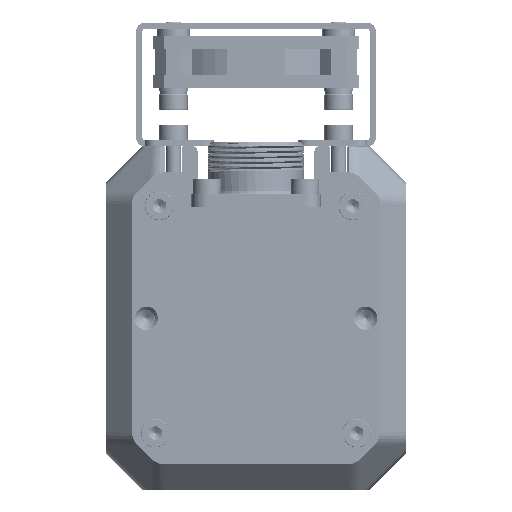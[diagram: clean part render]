
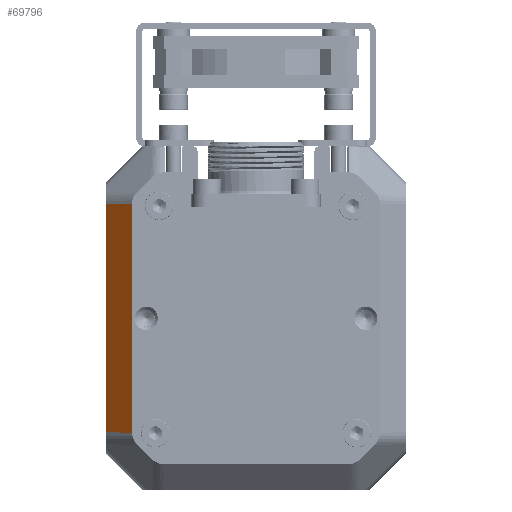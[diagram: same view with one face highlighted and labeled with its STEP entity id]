
A CAD part, front view. The second image highlights one B-rep face of the part: STEP entity #69796.
In plain terms, the highlighted planar face has unit normal (-0.707, -0.707, 0) as drawn and (0.707, 0, 0.707) by its records, which use the part's own axes.
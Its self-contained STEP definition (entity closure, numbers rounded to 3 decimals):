
#63612=DIRECTION('',(0.,1.,0.));
#63613=VECTOR('',#63612,44.094);
#63614=CARTESIAN_POINT('',(29.,-55.297,-5.));
#63615=LINE('',#63614,#63613);
#64461=CARTESIAN_POINT('',(29.,-55.297,-5.));
#64471=DIRECTION('',(-0.707,-0.02,0.707));
#64472=VECTOR('',#64471,7.072);
#64473=CARTESIAN_POINT('',(29.,-55.297,-5.));
#64474=LINE('',#64473,#64472);
#64478=DIRECTION('',(0.,1.,0.));
#64479=VECTOR('',#64478,44.371);
#64480=CARTESIAN_POINT('',(24.,-55.435,0.));
#64481=LINE('',#64480,#64479);
#64485=DIRECTION('',(0.707,-0.02,-0.707));
#64486=VECTOR('',#64485,7.072);
#64487=CARTESIAN_POINT('',(24.,-11.065,0.));
#64488=LINE('',#64487,#64486);
#64492=CARTESIAN_POINT('',(24.,-11.065,0.));
#66099=VERTEX_POINT('',#64492);
#66100=CARTESIAN_POINT('',(24.,-55.435,0.));
#66101=VERTEX_POINT('',#66100);
#66766=VERTEX_POINT('',#64461);
#66767=CARTESIAN_POINT('',(29.,-11.203,-5.));
#66768=VERTEX_POINT('',#66767);
#69784=CARTESIAN_POINT('',(26.5,-33.25,-2.5));
#69785=DIRECTION('',(0.707,0.,0.707));
#69786=DIRECTION('',(0.707,0.,-0.707));
#69787=AXIS2_PLACEMENT_3D('',#69784,#69785,#69786);
#69788=PLANE('',#69787);
#69789=ORIENTED_EDGE('',*,*,#68966,.F.);
#69790=ORIENTED_EDGE('',*,*,#69777,.T.);
#69791=ORIENTED_EDGE('',*,*,#67042,.T.);
#69793=ORIENTED_EDGE('',*,*,#69792,.T.);
#69794=EDGE_LOOP('',(#69789,#69790,#69791,#69793));
#69795=FACE_OUTER_BOUND('',#69794,.F.);
#67042=EDGE_CURVE('',#66101,#66099,#64481,.T.);
#68966=EDGE_CURVE('',#66766,#66768,#63615,.T.);
#69777=EDGE_CURVE('',#66766,#66101,#64474,.T.);
#69792=EDGE_CURVE('',#66099,#66768,#64488,.T.);
#69796=ADVANCED_FACE('',(#69795),#69788,.T.);
